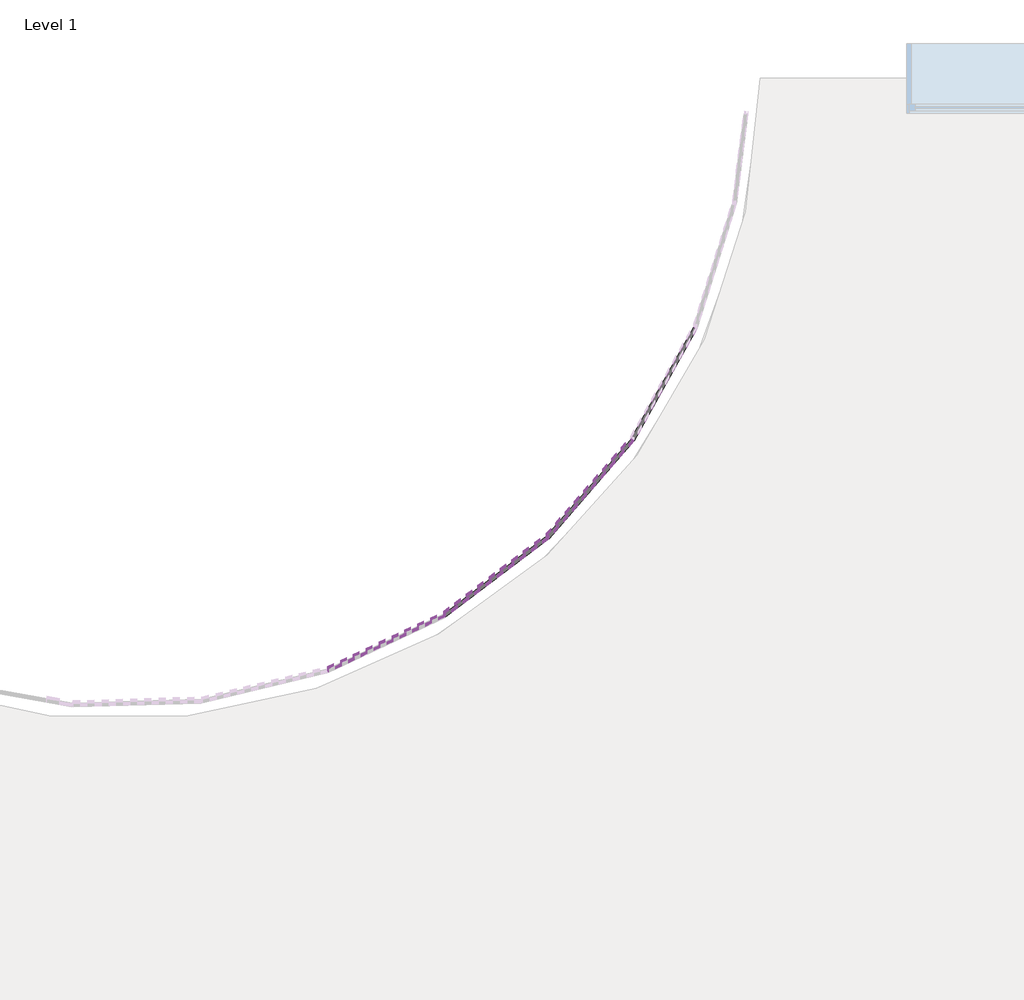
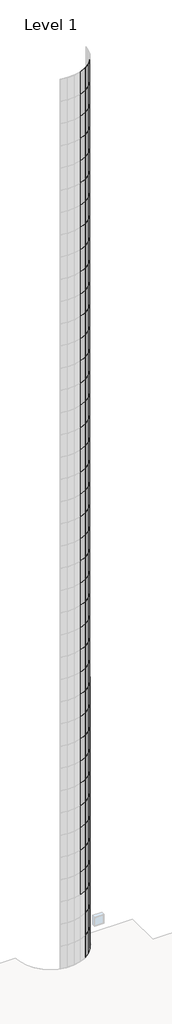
# One storey, part 18 of 19: 129 plates.
"""IFC4 building model written with IfcOpenShell, lengths in millimetres."""

from ifc_helpers import new_model, si_unit, origin, place, context, project, spatial, transform, mapped, element, save
from components import system_panel_glazed_d77d1ebf

model = new_model("IFC4")

# Units and contexts
model_context = context("Model", 3, world=origin())
ifc_project = project(units=[si_unit("LENGTHUNIT", "METRE", prefix="MILLI")], contexts=[model_context])

# Site, building, storey
site = spatial("IfcSite", under=ifc_project)
building = spatial("IfcBuilding", under=site)
storey = spatial("IfcBuildingStorey", under=building, Name="Level 1", Elevation=0.0)

# Plates
placement = place(None, origin())
system_panel_glazed_shape = system_panel_glazed_d77d1ebf(model_context)
element("IfcPlate", 1, ObjectType="System Panel : Glazed", at=placement, inside=storey, context=model_context, shape_type="MappedRepresentation", body=[
    mapped(system_panel_glazed_shape, transform((6187.9476398, 5523.679559, 0.0), x_axis=(0.7973536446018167, 0.6035123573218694, 0.0), y_axis=(-0.6035123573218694, 0.7973536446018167, 0.0), z_axis=(0.0, 0.0, 1.0))),
])
element("IfcPlate", 2, ObjectType="System Panel : Glazed", at=placement, inside=storey, context=model_context, shape_type="MappedRepresentation", body=[
    mapped(system_panel_glazed_shape, transform((6852.9242758, 6144.243956, 0.0), x_axis=(0.6571009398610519, 0.7538025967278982, 0.0), y_axis=(-0.7538025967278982, 0.6571009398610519, 0.0), z_axis=(0.0, 0.0, 1.0))),
])
element("IfcPlate", 3, ObjectType="System Panel : Glazed", at=placement, inside=storey, context=model_context, shape_type="MappedRepresentation", body=[
    mapped(system_panel_glazed_shape, transform((7376.9584203, 6887.6700201, 0.0), x_axis=(0.4890804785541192, 0.8722386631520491, 0.0), y_axis=(-0.8722386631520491, 0.4890804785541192, 0.0), z_axis=(0.0, 0.0, 1.0))),
])
element("IfcPlate", 4, ObjectType="System Panel : Glazed", at=placement, inside=storey, context=model_context, shape_type="MappedRepresentation", body=[
    mapped(system_panel_glazed_shape, transform((6187.9476398, 5523.679559, 3048.0), x_axis=(0.7973536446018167, 0.6035123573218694, 0.0), y_axis=(-0.6035123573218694, 0.7973536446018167, 0.0), z_axis=(0.0, 0.0, 1.0))),
])
element("IfcPlate", 5, ObjectType="System Panel : Glazed", at=placement, inside=storey, context=model_context, shape_type="MappedRepresentation", body=[
    mapped(system_panel_glazed_shape, transform((6852.9242758, 6144.243956, 3048.0), x_axis=(0.6571009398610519, 0.7538025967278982, 0.0), y_axis=(-0.7538025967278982, 0.6571009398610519, 0.0), z_axis=(0.0, 0.0, 1.0))),
])
element("IfcPlate", 6, ObjectType="System Panel : Glazed", at=placement, inside=storey, context=model_context, shape_type="MappedRepresentation", body=[
    mapped(system_panel_glazed_shape, transform((7376.9584203, 6887.6700201, 3048.0), x_axis=(0.4890804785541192, 0.8722386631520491, 0.0), y_axis=(-0.8722386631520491, 0.4890804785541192, 0.0), z_axis=(0.0, 0.0, 1.0))),
])
element("IfcPlate", 7, ObjectType="System Panel : Glazed", at=placement, inside=storey, context=model_context, shape_type="MappedRepresentation", body=[
    mapped(system_panel_glazed_shape, transform((6187.9476398, 5523.679559, 6096.0), x_axis=(0.7973536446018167, 0.6035123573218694, 0.0), y_axis=(-0.6035123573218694, 0.7973536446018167, 0.0), z_axis=(0.0, 0.0, 1.0))),
])
element("IfcPlate", 8, ObjectType="System Panel : Glazed", at=placement, inside=storey, context=model_context, shape_type="MappedRepresentation", body=[
    mapped(system_panel_glazed_shape, transform((6852.9242758, 6144.243956, 6096.0), x_axis=(0.6571009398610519, 0.7538025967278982, 0.0), y_axis=(-0.7538025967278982, 0.6571009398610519, 0.0), z_axis=(0.0, 0.0, 1.0))),
])
element("IfcPlate", 9, ObjectType="System Panel : Glazed", at=placement, inside=storey, context=model_context, shape_type="MappedRepresentation", body=[
    mapped(system_panel_glazed_shape, transform((7376.9584203, 6887.6700201, 6096.0), x_axis=(0.4890804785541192, 0.8722386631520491, 0.0), y_axis=(-0.8722386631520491, 0.4890804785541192, 0.0), z_axis=(0.0, 0.0, 1.0))),
])
element("IfcPlate", 10, ObjectType="System Panel : Glazed", at=placement, inside=storey, context=model_context, shape_type="MappedRepresentation", body=[
    mapped(system_panel_glazed_shape, transform((5410.1290798, 5052.2006253, 9144.0), x_axis=(0.9039117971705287, 0.4277189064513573, 0.0), y_axis=(-0.4277189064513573, 0.9039117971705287, 0.0), z_axis=(0.0, 0.0, 1.0))),
])
element("IfcPlate", 11, ObjectType="System Panel : Glazed", at=placement, inside=storey, context=model_context, shape_type="MappedRepresentation", body=[
    mapped(system_panel_glazed_shape, transform((6187.9476398, 5523.679559, 9144.0), x_axis=(0.7973536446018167, 0.6035123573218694, 0.0), y_axis=(-0.6035123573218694, 0.7973536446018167, 0.0), z_axis=(0.0, 0.0, 1.0))),
])
element("IfcPlate", 12, ObjectType="System Panel : Glazed", at=placement, inside=storey, context=model_context, shape_type="MappedRepresentation", body=[
    mapped(system_panel_glazed_shape, transform((6852.9242758, 6144.243956, 9144.0), x_axis=(0.6571009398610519, 0.7538025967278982, 0.0), y_axis=(-0.7538025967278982, 0.6571009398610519, 0.0), z_axis=(0.0, 0.0, 1.0))),
])
element("IfcPlate", 13, ObjectType="System Panel : Glazed", at=placement, inside=storey, context=model_context, shape_type="MappedRepresentation", body=[
    mapped(system_panel_glazed_shape, transform((7376.9584203, 6887.6700201, 9144.0), x_axis=(0.4890804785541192, 0.8722386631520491, 0.0), y_axis=(-0.8722386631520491, 0.4890804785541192, 0.0), z_axis=(0.0, 0.0, 1.0))),
])
element("IfcPlate", 14, ObjectType="System Panel : Glazed", at=placement, inside=storey, context=model_context, shape_type="MappedRepresentation", body=[
    mapped(system_panel_glazed_shape, transform((5410.1290798, 5052.2006253, 12192.0), x_axis=(0.9039117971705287, 0.4277189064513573, 0.0), y_axis=(-0.4277189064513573, 0.9039117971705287, 0.0), z_axis=(0.0, 0.0, 1.0))),
])
element("IfcPlate", 15, ObjectType="System Panel : Glazed", at=placement, inside=storey, context=model_context, shape_type="MappedRepresentation", body=[
    mapped(system_panel_glazed_shape, transform((6187.9476398, 5523.679559, 12192.0), x_axis=(0.7973536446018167, 0.6035123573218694, 0.0), y_axis=(-0.6035123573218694, 0.7973536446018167, 0.0), z_axis=(0.0, 0.0, 1.0))),
])
element("IfcPlate", 16, ObjectType="System Panel : Glazed", at=placement, inside=storey, context=model_context, shape_type="MappedRepresentation", body=[
    mapped(system_panel_glazed_shape, transform((6852.9242758, 6144.243956, 12192.0), x_axis=(0.6571009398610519, 0.7538025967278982, 0.0), y_axis=(-0.7538025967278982, 0.6571009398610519, 0.0), z_axis=(0.0, 0.0, 1.0))),
])
element("IfcPlate", 17, ObjectType="System Panel : Glazed", at=placement, inside=storey, context=model_context, shape_type="MappedRepresentation", body=[
    mapped(system_panel_glazed_shape, transform((7376.9584203, 6887.6700201, 12192.0), x_axis=(0.4890804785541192, 0.8722386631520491, 0.0), y_axis=(-0.8722386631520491, 0.4890804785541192, 0.0), z_axis=(0.0, 0.0, 1.0))),
])
element("IfcPlate", 18, ObjectType="System Panel : Glazed", at=placement, inside=storey, context=model_context, shape_type="MappedRepresentation", body=[
    mapped(system_panel_glazed_shape, transform((5410.1290798, 5052.2006253, 15240.0), x_axis=(0.9039117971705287, 0.4277189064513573, 0.0), y_axis=(-0.4277189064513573, 0.9039117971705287, 0.0), z_axis=(0.0, 0.0, 1.0))),
])
element("IfcPlate", 19, ObjectType="System Panel : Glazed", at=placement, inside=storey, context=model_context, shape_type="MappedRepresentation", body=[
    mapped(system_panel_glazed_shape, transform((6187.9476398, 5523.679559, 15240.0), x_axis=(0.7973536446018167, 0.6035123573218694, 0.0), y_axis=(-0.6035123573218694, 0.7973536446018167, 0.0), z_axis=(0.0, 0.0, 1.0))),
])
element("IfcPlate", 20, ObjectType="System Panel : Glazed", at=placement, inside=storey, context=model_context, shape_type="MappedRepresentation", body=[
    mapped(system_panel_glazed_shape, transform((6852.9242758, 6144.243956, 15240.0), x_axis=(0.6571009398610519, 0.7538025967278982, 0.0), y_axis=(-0.7538025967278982, 0.6571009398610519, 0.0), z_axis=(0.0, 0.0, 1.0))),
])
element("IfcPlate", 21, ObjectType="System Panel : Glazed", at=placement, inside=storey, context=model_context, shape_type="MappedRepresentation", body=[
    mapped(system_panel_glazed_shape, transform((7376.9584203, 6887.6700201, 15240.0), x_axis=(0.4890804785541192, 0.8722386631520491, 0.0), y_axis=(-0.8722386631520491, 0.4890804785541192, 0.0), z_axis=(0.0, 0.0, 1.0))),
])
element("IfcPlate", 22, ObjectType="System Panel : Glazed", at=placement, inside=storey, context=model_context, shape_type="MappedRepresentation", body=[
    mapped(system_panel_glazed_shape, transform((5410.1290798, 5052.2006253, 18288.0), x_axis=(0.9039117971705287, 0.42771890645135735, 0.0), y_axis=(-0.42771890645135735, 0.9039117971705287, 0.0), z_axis=(0.0, 0.0, 1.0))),
])
element("IfcPlate", 23, ObjectType="System Panel : Glazed", at=placement, inside=storey, context=model_context, shape_type="MappedRepresentation", body=[
    mapped(system_panel_glazed_shape, transform((6187.9476398, 5523.679559, 18288.0), x_axis=(0.7973536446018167, 0.6035123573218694, 0.0), y_axis=(-0.6035123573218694, 0.7973536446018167, 0.0), z_axis=(0.0, 0.0, 1.0))),
])
element("IfcPlate", 24, ObjectType="System Panel : Glazed", at=placement, inside=storey, context=model_context, shape_type="MappedRepresentation", body=[
    mapped(system_panel_glazed_shape, transform((6852.9242758, 6144.243956, 18288.0), x_axis=(0.6571009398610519, 0.7538025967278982, 0.0), y_axis=(-0.7538025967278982, 0.6571009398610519, 0.0), z_axis=(0.0, 0.0, 1.0))),
])
element("IfcPlate", 25, ObjectType="System Panel : Glazed", at=placement, inside=storey, context=model_context, shape_type="MappedRepresentation", body=[
    mapped(system_panel_glazed_shape, transform((7376.9584203, 6887.6700201, 18288.0), x_axis=(0.48908047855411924, 0.8722386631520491, 0.0), y_axis=(-0.8722386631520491, 0.48908047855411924, 0.0), z_axis=(0.0, 0.0, 1.0))),
])
element("IfcPlate", 26, ObjectType="System Panel : Glazed", at=placement, inside=storey, context=model_context, shape_type="MappedRepresentation", body=[
    mapped(system_panel_glazed_shape, transform((5410.1290798, 5052.2006253, 21336.0), x_axis=(0.9039117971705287, 0.4277189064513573, 0.0), y_axis=(-0.4277189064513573, 0.9039117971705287, 0.0), z_axis=(0.0, 0.0, 1.0))),
])
element("IfcPlate", 27, ObjectType="System Panel : Glazed", at=placement, inside=storey, context=model_context, shape_type="MappedRepresentation", body=[
    mapped(system_panel_glazed_shape, transform((6187.9476398, 5523.679559, 21336.0), x_axis=(0.7973536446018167, 0.6035123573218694, 0.0), y_axis=(-0.6035123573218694, 0.7973536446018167, 0.0), z_axis=(0.0, 0.0, 1.0))),
])
element("IfcPlate", 28, ObjectType="System Panel : Glazed", at=placement, inside=storey, context=model_context, shape_type="MappedRepresentation", body=[
    mapped(system_panel_glazed_shape, transform((6852.9242758, 6144.243956, 21336.0), x_axis=(0.6571009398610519, 0.7538025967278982, 0.0), y_axis=(-0.7538025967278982, 0.6571009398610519, 0.0), z_axis=(0.0, 0.0, 1.0))),
])
element("IfcPlate", 29, ObjectType="System Panel : Glazed", at=placement, inside=storey, context=model_context, shape_type="MappedRepresentation", body=[
    mapped(system_panel_glazed_shape, transform((7376.9584203, 6887.6700201, 21336.0), x_axis=(0.4890804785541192, 0.8722386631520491, 0.0), y_axis=(-0.8722386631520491, 0.4890804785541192, 0.0), z_axis=(0.0, 0.0, 1.0))),
])
element("IfcPlate", 30, ObjectType="System Panel : Glazed", at=placement, inside=storey, context=model_context, shape_type="MappedRepresentation", body=[
    mapped(system_panel_glazed_shape, transform((5410.1290798, 5052.2006253, 24384.0), x_axis=(0.9039117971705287, 0.4277189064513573, 0.0), y_axis=(-0.4277189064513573, 0.9039117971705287, 0.0), z_axis=(0.0, 0.0, 1.0))),
])
element("IfcPlate", 31, ObjectType="System Panel : Glazed", at=placement, inside=storey, context=model_context, shape_type="MappedRepresentation", body=[
    mapped(system_panel_glazed_shape, transform((6187.9476398, 5523.679559, 24384.0), x_axis=(0.7973536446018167, 0.6035123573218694, 0.0), y_axis=(-0.6035123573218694, 0.7973536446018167, 0.0), z_axis=(0.0, 0.0, 1.0))),
])
element("IfcPlate", 32, ObjectType="System Panel : Glazed", at=placement, inside=storey, context=model_context, shape_type="MappedRepresentation", body=[
    mapped(system_panel_glazed_shape, transform((6852.9242758, 6144.243956, 24384.0), x_axis=(0.6571009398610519, 0.7538025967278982, 0.0), y_axis=(-0.7538025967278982, 0.6571009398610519, 0.0), z_axis=(0.0, 0.0, 1.0))),
])
element("IfcPlate", 33, ObjectType="System Panel : Glazed", at=placement, inside=storey, context=model_context, shape_type="MappedRepresentation", body=[
    mapped(system_panel_glazed_shape, transform((7376.9584203, 6887.6700201, 24384.0), x_axis=(0.4890804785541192, 0.8722386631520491, 0.0), y_axis=(-0.8722386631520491, 0.4890804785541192, 0.0), z_axis=(0.0, 0.0, 1.0))),
])
element("IfcPlate", 34, ObjectType="System Panel : Glazed", at=placement, inside=storey, context=model_context, shape_type="MappedRepresentation", body=[
    mapped(system_panel_glazed_shape, transform((5410.1290798, 5052.2006253, 27432.0), x_axis=(0.9039117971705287, 0.4277189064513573, 0.0), y_axis=(-0.4277189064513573, 0.9039117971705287, 0.0), z_axis=(0.0, 0.0, 1.0))),
])
element("IfcPlate", 35, ObjectType="System Panel : Glazed", at=placement, inside=storey, context=model_context, shape_type="MappedRepresentation", body=[
    mapped(system_panel_glazed_shape, transform((6187.9476398, 5523.679559, 27432.0), x_axis=(0.7973536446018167, 0.6035123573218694, 0.0), y_axis=(-0.6035123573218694, 0.7973536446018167, 0.0), z_axis=(0.0, 0.0, 1.0))),
])
element("IfcPlate", 36, ObjectType="System Panel : Glazed", at=placement, inside=storey, context=model_context, shape_type="MappedRepresentation", body=[
    mapped(system_panel_glazed_shape, transform((6852.9242758, 6144.243956, 27432.0), x_axis=(0.6571009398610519, 0.7538025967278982, 0.0), y_axis=(-0.7538025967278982, 0.6571009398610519, 0.0), z_axis=(0.0, 0.0, 1.0))),
])
element("IfcPlate", 37, ObjectType="System Panel : Glazed", at=placement, inside=storey, context=model_context, shape_type="MappedRepresentation", body=[
    mapped(system_panel_glazed_shape, transform((7376.9584203, 6887.6700201, 27432.0), x_axis=(0.4890804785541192, 0.8722386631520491, 0.0), y_axis=(-0.8722386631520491, 0.4890804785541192, 0.0), z_axis=(0.0, 0.0, 1.0))),
])
element("IfcPlate", 38, ObjectType="System Panel : Glazed", at=placement, inside=storey, context=model_context, shape_type="MappedRepresentation", body=[
    mapped(system_panel_glazed_shape, transform((5410.1290798, 5052.2006253, 30480.0), x_axis=(0.9039117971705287, 0.4277189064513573, 0.0), y_axis=(-0.4277189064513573, 0.9039117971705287, 0.0), z_axis=(0.0, 0.0, 1.0))),
])
element("IfcPlate", 39, ObjectType="System Panel : Glazed", at=placement, inside=storey, context=model_context, shape_type="MappedRepresentation", body=[
    mapped(system_panel_glazed_shape, transform((6187.9476398, 5523.679559, 30480.0), x_axis=(0.7973536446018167, 0.6035123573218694, 0.0), y_axis=(-0.6035123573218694, 0.7973536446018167, 0.0), z_axis=(0.0, 0.0, 1.0))),
])
element("IfcPlate", 40, ObjectType="System Panel : Glazed", at=placement, inside=storey, context=model_context, shape_type="MappedRepresentation", body=[
    mapped(system_panel_glazed_shape, transform((6852.9242758, 6144.243956, 30480.0), x_axis=(0.6571009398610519, 0.7538025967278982, 0.0), y_axis=(-0.7538025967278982, 0.6571009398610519, 0.0), z_axis=(0.0, 0.0, 1.0))),
])
element("IfcPlate", 41, ObjectType="System Panel : Glazed", at=placement, inside=storey, context=model_context, shape_type="MappedRepresentation", body=[
    mapped(system_panel_glazed_shape, transform((7376.9584203, 6887.6700201, 30480.0), x_axis=(0.4890804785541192, 0.8722386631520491, 0.0), y_axis=(-0.8722386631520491, 0.4890804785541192, 0.0), z_axis=(0.0, 0.0, 1.0))),
])
element("IfcPlate", 42, ObjectType="System Panel : Glazed", at=placement, inside=storey, context=model_context, shape_type="MappedRepresentation", body=[
    mapped(system_panel_glazed_shape, transform((5410.1290798, 5052.2006253, 33528.0), x_axis=(0.9039117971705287, 0.4277189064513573, 0.0), y_axis=(-0.4277189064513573, 0.9039117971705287, 0.0), z_axis=(0.0, 0.0, 1.0))),
])
element("IfcPlate", 43, ObjectType="System Panel : Glazed", at=placement, inside=storey, context=model_context, shape_type="MappedRepresentation", body=[
    mapped(system_panel_glazed_shape, transform((6187.9476398, 5523.679559, 33528.0), x_axis=(0.7973536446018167, 0.6035123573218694, 0.0), y_axis=(-0.6035123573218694, 0.7973536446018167, 0.0), z_axis=(0.0, 0.0, 1.0))),
])
element("IfcPlate", 44, ObjectType="System Panel : Glazed", at=placement, inside=storey, context=model_context, shape_type="MappedRepresentation", body=[
    mapped(system_panel_glazed_shape, transform((6852.9242758, 6144.243956, 33528.0), x_axis=(0.6571009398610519, 0.7538025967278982, 0.0), y_axis=(-0.7538025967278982, 0.6571009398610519, 0.0), z_axis=(0.0, 0.0, 1.0))),
])
element("IfcPlate", 45, ObjectType="System Panel : Glazed", at=placement, inside=storey, context=model_context, shape_type="MappedRepresentation", body=[
    mapped(system_panel_glazed_shape, transform((7376.9584203, 6887.6700201, 33528.0), x_axis=(0.4890804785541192, 0.8722386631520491, 0.0), y_axis=(-0.8722386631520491, 0.4890804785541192, 0.0), z_axis=(0.0, 0.0, 1.0))),
])
element("IfcPlate", 46, ObjectType="System Panel : Glazed", at=placement, inside=storey, context=model_context, shape_type="MappedRepresentation", body=[
    mapped(system_panel_glazed_shape, transform((5410.1290798, 5052.2006253, 36576.0), x_axis=(0.9039117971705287, 0.4277189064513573, 0.0), y_axis=(-0.4277189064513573, 0.9039117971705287, 0.0), z_axis=(0.0, 0.0, 1.0))),
])
element("IfcPlate", 47, ObjectType="System Panel : Glazed", at=placement, inside=storey, context=model_context, shape_type="MappedRepresentation", body=[
    mapped(system_panel_glazed_shape, transform((6187.9476398, 5523.679559, 36576.0), x_axis=(0.7973536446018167, 0.6035123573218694, 0.0), y_axis=(-0.6035123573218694, 0.7973536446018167, 0.0), z_axis=(0.0, 0.0, 1.0))),
])
element("IfcPlate", 48, ObjectType="System Panel : Glazed", at=placement, inside=storey, context=model_context, shape_type="MappedRepresentation", body=[
    mapped(system_panel_glazed_shape, transform((6852.9242758, 6144.243956, 36576.0), x_axis=(0.6571009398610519, 0.7538025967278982, 0.0), y_axis=(-0.7538025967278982, 0.6571009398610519, 0.0), z_axis=(0.0, 0.0, 1.0))),
])
element("IfcPlate", 49, ObjectType="System Panel : Glazed", at=placement, inside=storey, context=model_context, shape_type="MappedRepresentation", body=[
    mapped(system_panel_glazed_shape, transform((5410.1290798, 5052.2006253, 39624.0), x_axis=(0.9039117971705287, 0.4277189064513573, 0.0), y_axis=(-0.4277189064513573, 0.9039117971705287, 0.0), z_axis=(0.0, 0.0, 1.0))),
])
element("IfcPlate", 50, ObjectType="System Panel : Glazed", at=placement, inside=storey, context=model_context, shape_type="MappedRepresentation", body=[
    mapped(system_panel_glazed_shape, transform((6187.9476398, 5523.679559, 39624.0), x_axis=(0.7973536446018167, 0.6035123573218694, 0.0), y_axis=(-0.6035123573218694, 0.7973536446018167, 0.0), z_axis=(0.0, 0.0, 1.0))),
])
element("IfcPlate", 51, ObjectType="System Panel : Glazed", at=placement, inside=storey, context=model_context, shape_type="MappedRepresentation", body=[
    mapped(system_panel_glazed_shape, transform((6852.9242758, 6144.243956, 39624.0), x_axis=(0.6571009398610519, 0.7538025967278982, 0.0), y_axis=(-0.7538025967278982, 0.6571009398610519, 0.0), z_axis=(0.0, 0.0, 1.0))),
])
element("IfcPlate", 52, ObjectType="System Panel : Glazed", at=placement, inside=storey, context=model_context, shape_type="MappedRepresentation", body=[
    mapped(system_panel_glazed_shape, transform((5410.1290798, 5052.2006253, 42672.0), x_axis=(0.9039117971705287, 0.4277189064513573, 0.0), y_axis=(-0.4277189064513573, 0.9039117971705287, 0.0), z_axis=(0.0, 0.0, 1.0))),
])
element("IfcPlate", 53, ObjectType="System Panel : Glazed", at=placement, inside=storey, context=model_context, shape_type="MappedRepresentation", body=[
    mapped(system_panel_glazed_shape, transform((6187.9476398, 5523.679559, 42672.0), x_axis=(0.7973536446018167, 0.6035123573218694, 0.0), y_axis=(-0.6035123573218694, 0.7973536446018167, 0.0), z_axis=(0.0, 0.0, 1.0))),
])
element("IfcPlate", 54, ObjectType="System Panel : Glazed", at=placement, inside=storey, context=model_context, shape_type="MappedRepresentation", body=[
    mapped(system_panel_glazed_shape, transform((6852.9242758, 6144.243956, 42672.0), x_axis=(0.6571009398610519, 0.7538025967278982, 0.0), y_axis=(-0.7538025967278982, 0.6571009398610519, 0.0), z_axis=(0.0, 0.0, 1.0))),
])
element("IfcPlate", 55, ObjectType="System Panel : Glazed", at=placement, inside=storey, context=model_context, shape_type="MappedRepresentation", body=[
    mapped(system_panel_glazed_shape, transform((5410.1290798, 5052.2006253, 45720.0), x_axis=(0.9039117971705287, 0.4277189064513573, 0.0), y_axis=(-0.4277189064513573, 0.9039117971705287, 0.0), z_axis=(0.0, 0.0, 1.0))),
])
element("IfcPlate", 56, ObjectType="System Panel : Glazed", at=placement, inside=storey, context=model_context, shape_type="MappedRepresentation", body=[
    mapped(system_panel_glazed_shape, transform((6187.9476398, 5523.679559, 45720.0), x_axis=(0.7973536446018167, 0.6035123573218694, 0.0), y_axis=(-0.6035123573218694, 0.7973536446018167, 0.0), z_axis=(0.0, 0.0, 1.0))),
])
element("IfcPlate", 57, ObjectType="System Panel : Glazed", at=placement, inside=storey, context=model_context, shape_type="MappedRepresentation", body=[
    mapped(system_panel_glazed_shape, transform((6852.9242758, 6144.243956, 45720.0), x_axis=(0.6571009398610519, 0.7538025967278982, 0.0), y_axis=(-0.7538025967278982, 0.6571009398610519, 0.0), z_axis=(0.0, 0.0, 1.0))),
])
element("IfcPlate", 58, ObjectType="System Panel : Glazed", at=placement, inside=storey, context=model_context, shape_type="MappedRepresentation", body=[
    mapped(system_panel_glazed_shape, transform((5410.1290798, 5052.2006253, 48768.0), x_axis=(0.9039117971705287, 0.4277189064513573, 0.0), y_axis=(-0.4277189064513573, 0.9039117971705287, 0.0), z_axis=(0.0, 0.0, 1.0))),
])
element("IfcPlate", 59, ObjectType="System Panel : Glazed", at=placement, inside=storey, context=model_context, shape_type="MappedRepresentation", body=[
    mapped(system_panel_glazed_shape, transform((6187.9476398, 5523.679559, 48768.0), x_axis=(0.7973536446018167, 0.6035123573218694, 0.0), y_axis=(-0.6035123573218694, 0.7973536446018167, 0.0), z_axis=(0.0, 0.0, 1.0))),
])
element("IfcPlate", 60, ObjectType="System Panel : Glazed", at=placement, inside=storey, context=model_context, shape_type="MappedRepresentation", body=[
    mapped(system_panel_glazed_shape, transform((6852.9242758, 6144.243956, 48768.0), x_axis=(0.6571009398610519, 0.7538025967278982, 0.0), y_axis=(-0.7538025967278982, 0.6571009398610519, 0.0), z_axis=(0.0, 0.0, 1.0))),
])
element("IfcPlate", 61, ObjectType="System Panel : Glazed", at=placement, inside=storey, context=model_context, shape_type="MappedRepresentation", body=[
    mapped(system_panel_glazed_shape, transform((5410.1290798, 5052.2006253, 51816.0), x_axis=(0.9039117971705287, 0.4277189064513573, 0.0), y_axis=(-0.4277189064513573, 0.9039117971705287, 0.0), z_axis=(0.0, 0.0, 1.0))),
])
element("IfcPlate", 62, ObjectType="System Panel : Glazed", at=placement, inside=storey, context=model_context, shape_type="MappedRepresentation", body=[
    mapped(system_panel_glazed_shape, transform((6187.9476398, 5523.679559, 51816.0), x_axis=(0.7973536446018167, 0.6035123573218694, 0.0), y_axis=(-0.6035123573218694, 0.7973536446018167, 0.0), z_axis=(0.0, 0.0, 1.0))),
])
element("IfcPlate", 63, ObjectType="System Panel : Glazed", at=placement, inside=storey, context=model_context, shape_type="MappedRepresentation", body=[
    mapped(system_panel_glazed_shape, transform((6852.9242758, 6144.243956, 51816.0), x_axis=(0.6571009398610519, 0.7538025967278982, 0.0), y_axis=(-0.7538025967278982, 0.6571009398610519, 0.0), z_axis=(0.0, 0.0, 1.0))),
])
element("IfcPlate", 64, ObjectType="System Panel : Glazed", at=placement, inside=storey, context=model_context, shape_type="MappedRepresentation", body=[
    mapped(system_panel_glazed_shape, transform((5410.1290798, 5052.2006253, 54864.0), x_axis=(0.9039117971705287, 0.4277189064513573, 0.0), y_axis=(-0.4277189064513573, 0.9039117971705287, 0.0), z_axis=(0.0, 0.0, 1.0))),
])
element("IfcPlate", 65, ObjectType="System Panel : Glazed", at=placement, inside=storey, context=model_context, shape_type="MappedRepresentation", body=[
    mapped(system_panel_glazed_shape, transform((6187.9476398, 5523.679559, 54864.0), x_axis=(0.7973536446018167, 0.6035123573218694, 0.0), y_axis=(-0.6035123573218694, 0.7973536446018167, 0.0), z_axis=(0.0, 0.0, 1.0))),
])
element("IfcPlate", 66, ObjectType="System Panel : Glazed", at=placement, inside=storey, context=model_context, shape_type="MappedRepresentation", body=[
    mapped(system_panel_glazed_shape, transform((6852.9242758, 6144.243956, 54864.0), x_axis=(0.6571009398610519, 0.7538025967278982, 0.0), y_axis=(-0.7538025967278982, 0.6571009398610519, 0.0), z_axis=(0.0, 0.0, 1.0))),
])
element("IfcPlate", 67, ObjectType="System Panel : Glazed", at=placement, inside=storey, context=model_context, shape_type="MappedRepresentation", body=[
    mapped(system_panel_glazed_shape, transform((5410.1290798, 5052.2006253, 57912.0), x_axis=(0.9039117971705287, 0.4277189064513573, 0.0), y_axis=(-0.4277189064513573, 0.9039117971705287, 0.0), z_axis=(0.0, 0.0, 1.0))),
])
element("IfcPlate", 68, ObjectType="System Panel : Glazed", at=placement, inside=storey, context=model_context, shape_type="MappedRepresentation", body=[
    mapped(system_panel_glazed_shape, transform((6187.9476398, 5523.679559, 57912.0), x_axis=(0.7973536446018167, 0.6035123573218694, 0.0), y_axis=(-0.6035123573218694, 0.7973536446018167, 0.0), z_axis=(0.0, 0.0, 1.0))),
])
element("IfcPlate", 69, ObjectType="System Panel : Glazed", at=placement, inside=storey, context=model_context, shape_type="MappedRepresentation", body=[
    mapped(system_panel_glazed_shape, transform((6852.9242758, 6144.243956, 57912.0), x_axis=(0.6571009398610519, 0.7538025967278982, 0.0), y_axis=(-0.7538025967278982, 0.6571009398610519, 0.0), z_axis=(0.0, 0.0, 1.0))),
])
element("IfcPlate", 70, ObjectType="System Panel : Glazed", at=placement, inside=storey, context=model_context, shape_type="MappedRepresentation", body=[
    mapped(system_panel_glazed_shape, transform((5410.1290798, 5052.2006253, 60960.0), x_axis=(0.9039117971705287, 0.4277189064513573, 0.0), y_axis=(-0.4277189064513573, 0.9039117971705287, 0.0), z_axis=(0.0, 0.0, 1.0))),
])
element("IfcPlate", 71, ObjectType="System Panel : Glazed", at=placement, inside=storey, context=model_context, shape_type="MappedRepresentation", body=[
    mapped(system_panel_glazed_shape, transform((6187.9476398, 5523.679559, 60960.0), x_axis=(0.7973536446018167, 0.6035123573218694, 0.0), y_axis=(-0.6035123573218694, 0.7973536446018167, 0.0), z_axis=(0.0, 0.0, 1.0))),
])
element("IfcPlate", 72, ObjectType="System Panel : Glazed", at=placement, inside=storey, context=model_context, shape_type="MappedRepresentation", body=[
    mapped(system_panel_glazed_shape, transform((6852.9242758, 6144.243956, 60960.0), x_axis=(0.6571009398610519, 0.7538025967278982, 0.0), y_axis=(-0.7538025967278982, 0.6571009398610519, 0.0), z_axis=(0.0, 0.0, 1.0))),
])
element("IfcPlate", 73, ObjectType="System Panel : Glazed", at=placement, inside=storey, context=model_context, shape_type="MappedRepresentation", body=[
    mapped(system_panel_glazed_shape, transform((5410.1290798, 5052.2006253, 64008.0), x_axis=(0.9039117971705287, 0.4277189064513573, 0.0), y_axis=(-0.4277189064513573, 0.9039117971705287, 0.0), z_axis=(0.0, 0.0, 1.0))),
])
element("IfcPlate", 74, ObjectType="System Panel : Glazed", at=placement, inside=storey, context=model_context, shape_type="MappedRepresentation", body=[
    mapped(system_panel_glazed_shape, transform((6187.9476398, 5523.679559, 64008.0), x_axis=(0.7973536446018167, 0.6035123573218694, 0.0), y_axis=(-0.6035123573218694, 0.7973536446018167, 0.0), z_axis=(0.0, 0.0, 1.0))),
])
element("IfcPlate", 75, ObjectType="System Panel : Glazed", at=placement, inside=storey, context=model_context, shape_type="MappedRepresentation", body=[
    mapped(system_panel_glazed_shape, transform((6852.9242758, 6144.243956, 64008.0), x_axis=(0.6571009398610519, 0.7538025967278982, 0.0), y_axis=(-0.7538025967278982, 0.6571009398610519, 0.0), z_axis=(0.0, 0.0, 1.0))),
])
element("IfcPlate", 76, ObjectType="System Panel : Glazed", at=placement, inside=storey, context=model_context, shape_type="MappedRepresentation", body=[
    mapped(system_panel_glazed_shape, transform((5410.1290798, 5052.2006253, 67056.0), x_axis=(0.9039117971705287, 0.4277189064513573, 0.0), y_axis=(-0.4277189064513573, 0.9039117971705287, 0.0), z_axis=(0.0, 0.0, 1.0))),
])
element("IfcPlate", 77, ObjectType="System Panel : Glazed", at=placement, inside=storey, context=model_context, shape_type="MappedRepresentation", body=[
    mapped(system_panel_glazed_shape, transform((6187.9476398, 5523.679559, 67056.0), x_axis=(0.7973536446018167, 0.6035123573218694, 0.0), y_axis=(-0.6035123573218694, 0.7973536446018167, 0.0), z_axis=(0.0, 0.0, 1.0))),
])
element("IfcPlate", 78, ObjectType="System Panel : Glazed", at=placement, inside=storey, context=model_context, shape_type="MappedRepresentation", body=[
    mapped(system_panel_glazed_shape, transform((6852.9242758, 6144.243956, 67056.0), x_axis=(0.6571009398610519, 0.7538025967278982, 0.0), y_axis=(-0.7538025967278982, 0.6571009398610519, 0.0), z_axis=(0.0, 0.0, 1.0))),
])
element("IfcPlate", 79, ObjectType="System Panel : Glazed", at=placement, inside=storey, context=model_context, shape_type="MappedRepresentation", body=[
    mapped(system_panel_glazed_shape, transform((5410.1290798, 5052.2006253, 70104.0), x_axis=(0.9039117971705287, 0.4277189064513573, 0.0), y_axis=(-0.4277189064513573, 0.9039117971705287, 0.0), z_axis=(0.0, 0.0, 1.0))),
])
element("IfcPlate", 80, ObjectType="System Panel : Glazed", at=placement, inside=storey, context=model_context, shape_type="MappedRepresentation", body=[
    mapped(system_panel_glazed_shape, transform((6187.9476398, 5523.679559, 70104.0), x_axis=(0.7973536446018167, 0.6035123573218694, 0.0), y_axis=(-0.6035123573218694, 0.7973536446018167, 0.0), z_axis=(0.0, 0.0, 1.0))),
])
element("IfcPlate", 81, ObjectType="System Panel : Glazed", at=placement, inside=storey, context=model_context, shape_type="MappedRepresentation", body=[
    mapped(system_panel_glazed_shape, transform((6852.9242758, 6144.243956, 70104.0), x_axis=(0.6571009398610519, 0.7538025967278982, 0.0), y_axis=(-0.7538025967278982, 0.6571009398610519, 0.0), z_axis=(0.0, 0.0, 1.0))),
])
element("IfcPlate", 82, ObjectType="System Panel : Glazed", at=placement, inside=storey, context=model_context, shape_type="MappedRepresentation", body=[
    mapped(system_panel_glazed_shape, transform((5410.1290798, 5052.2006253, 73152.0), x_axis=(0.9039117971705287, 0.4277189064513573, 0.0), y_axis=(-0.4277189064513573, 0.9039117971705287, 0.0), z_axis=(0.0, 0.0, 1.0))),
])
element("IfcPlate", 83, ObjectType="System Panel : Glazed", at=placement, inside=storey, context=model_context, shape_type="MappedRepresentation", body=[
    mapped(system_panel_glazed_shape, transform((6187.9476398, 5523.679559, 73152.0), x_axis=(0.7973536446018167, 0.6035123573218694, 0.0), y_axis=(-0.6035123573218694, 0.7973536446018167, 0.0), z_axis=(0.0, 0.0, 1.0))),
])
element("IfcPlate", 84, ObjectType="System Panel : Glazed", at=placement, inside=storey, context=model_context, shape_type="MappedRepresentation", body=[
    mapped(system_panel_glazed_shape, transform((6852.9242758, 6144.243956, 73152.0), x_axis=(0.6571009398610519, 0.7538025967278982, 0.0), y_axis=(-0.7538025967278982, 0.6571009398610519, 0.0), z_axis=(0.0, 0.0, 1.0))),
])
element("IfcPlate", 85, ObjectType="System Panel : Glazed", at=placement, inside=storey, context=model_context, shape_type="MappedRepresentation", body=[
    mapped(system_panel_glazed_shape, transform((5410.1290798, 5052.2006253, 76200.0), x_axis=(0.9039117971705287, 0.4277189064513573, 0.0), y_axis=(-0.4277189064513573, 0.9039117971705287, 0.0), z_axis=(0.0, 0.0, 1.0))),
])
element("IfcPlate", 86, ObjectType="System Panel : Glazed", at=placement, inside=storey, context=model_context, shape_type="MappedRepresentation", body=[
    mapped(system_panel_glazed_shape, transform((6187.9476398, 5523.679559, 76200.0), x_axis=(0.7973536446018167, 0.6035123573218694, 0.0), y_axis=(-0.6035123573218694, 0.7973536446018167, 0.0), z_axis=(0.0, 0.0, 1.0))),
])
element("IfcPlate", 87, ObjectType="System Panel : Glazed", at=placement, inside=storey, context=model_context, shape_type="MappedRepresentation", body=[
    mapped(system_panel_glazed_shape, transform((6852.9242758, 6144.243956, 76200.0), x_axis=(0.6571009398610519, 0.7538025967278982, 0.0), y_axis=(-0.7538025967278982, 0.6571009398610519, 0.0), z_axis=(0.0, 0.0, 1.0))),
])
element("IfcPlate", 88, ObjectType="System Panel : Glazed", at=placement, inside=storey, context=model_context, shape_type="MappedRepresentation", body=[
    mapped(system_panel_glazed_shape, transform((5410.1290798, 5052.2006253, 79248.0), x_axis=(0.9039117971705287, 0.4277189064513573, 0.0), y_axis=(-0.4277189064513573, 0.9039117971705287, 0.0), z_axis=(0.0, 0.0, 1.0))),
])
element("IfcPlate", 89, ObjectType="System Panel : Glazed", at=placement, inside=storey, context=model_context, shape_type="MappedRepresentation", body=[
    mapped(system_panel_glazed_shape, transform((6187.9476398, 5523.679559, 79248.0), x_axis=(0.7973536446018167, 0.6035123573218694, 0.0), y_axis=(-0.6035123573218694, 0.7973536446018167, 0.0), z_axis=(0.0, 0.0, 1.0))),
])
element("IfcPlate", 90, ObjectType="System Panel : Glazed", at=placement, inside=storey, context=model_context, shape_type="MappedRepresentation", body=[
    mapped(system_panel_glazed_shape, transform((6852.9242758, 6144.243956, 79248.0), x_axis=(0.6571009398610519, 0.7538025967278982, 0.0), y_axis=(-0.7538025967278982, 0.6571009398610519, 0.0), z_axis=(0.0, 0.0, 1.0))),
])
element("IfcPlate", 91, ObjectType="System Panel : Glazed", at=placement, inside=storey, context=model_context, shape_type="MappedRepresentation", body=[
    mapped(system_panel_glazed_shape, transform((5410.1290798, 5052.2006253, 82296.0), x_axis=(0.9039117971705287, 0.4277189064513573, 0.0), y_axis=(-0.4277189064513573, 0.9039117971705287, 0.0), z_axis=(0.0, 0.0, 1.0))),
])
element("IfcPlate", 92, ObjectType="System Panel : Glazed", at=placement, inside=storey, context=model_context, shape_type="MappedRepresentation", body=[
    mapped(system_panel_glazed_shape, transform((6187.9476398, 5523.679559, 82296.0), x_axis=(0.7973536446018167, 0.6035123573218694, 0.0), y_axis=(-0.6035123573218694, 0.7973536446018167, 0.0), z_axis=(0.0, 0.0, 1.0))),
])
element("IfcPlate", 93, ObjectType="System Panel : Glazed", at=placement, inside=storey, context=model_context, shape_type="MappedRepresentation", body=[
    mapped(system_panel_glazed_shape, transform((6852.9242758, 6144.243956, 82296.0), x_axis=(0.6571009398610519, 0.7538025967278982, 0.0), y_axis=(-0.7538025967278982, 0.6571009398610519, 0.0), z_axis=(0.0, 0.0, 1.0))),
])
element("IfcPlate", 94, ObjectType="System Panel : Glazed", at=placement, inside=storey, context=model_context, shape_type="MappedRepresentation", body=[
    mapped(system_panel_glazed_shape, transform((5410.1290798, 5052.2006253, 85344.0), x_axis=(0.9039117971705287, 0.4277189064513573, 0.0), y_axis=(-0.4277189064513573, 0.9039117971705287, 0.0), z_axis=(0.0, 0.0, 1.0))),
])
element("IfcPlate", 95, ObjectType="System Panel : Glazed", at=placement, inside=storey, context=model_context, shape_type="MappedRepresentation", body=[
    mapped(system_panel_glazed_shape, transform((6187.9476398, 5523.679559, 85344.0), x_axis=(0.7973536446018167, 0.6035123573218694, 0.0), y_axis=(-0.6035123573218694, 0.7973536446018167, 0.0), z_axis=(0.0, 0.0, 1.0))),
])
element("IfcPlate", 96, ObjectType="System Panel : Glazed", at=placement, inside=storey, context=model_context, shape_type="MappedRepresentation", body=[
    mapped(system_panel_glazed_shape, transform((6852.9242758, 6144.243956, 85344.0), x_axis=(0.6571009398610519, 0.7538025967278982, 0.0), y_axis=(-0.7538025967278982, 0.6571009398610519, 0.0), z_axis=(0.0, 0.0, 1.0))),
])
element("IfcPlate", 97, ObjectType="System Panel : Glazed", at=placement, inside=storey, context=model_context, shape_type="MappedRepresentation", body=[
    mapped(system_panel_glazed_shape, transform((5410.1290798, 5052.2006253, 88392.0), x_axis=(0.9039117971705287, 0.4277189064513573, 0.0), y_axis=(-0.4277189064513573, 0.9039117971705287, 0.0), z_axis=(0.0, 0.0, 1.0))),
])
element("IfcPlate", 98, ObjectType="System Panel : Glazed", at=placement, inside=storey, context=model_context, shape_type="MappedRepresentation", body=[
    mapped(system_panel_glazed_shape, transform((6187.9476398, 5523.679559, 88392.0), x_axis=(0.7973536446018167, 0.6035123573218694, 0.0), y_axis=(-0.6035123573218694, 0.7973536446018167, 0.0), z_axis=(0.0, 0.0, 1.0))),
])
element("IfcPlate", 99, ObjectType="System Panel : Glazed", at=placement, inside=storey, context=model_context, shape_type="MappedRepresentation", body=[
    mapped(system_panel_glazed_shape, transform((6852.9242758, 6144.243956, 88392.0), x_axis=(0.6571009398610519, 0.7538025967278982, 0.0), y_axis=(-0.7538025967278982, 0.6571009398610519, 0.0), z_axis=(0.0, 0.0, 1.0))),
])
element("IfcPlate", 100, ObjectType="System Panel : Glazed", at=placement, inside=storey, context=model_context, shape_type="MappedRepresentation", body=[
    mapped(system_panel_glazed_shape, transform((5410.1290798, 5052.2006253, 91440.0), x_axis=(0.9039117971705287, 0.4277189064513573, 0.0), y_axis=(-0.4277189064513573, 0.9039117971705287, 0.0), z_axis=(0.0, 0.0, 1.0))),
])
element("IfcPlate", 101, ObjectType="System Panel : Glazed", at=placement, inside=storey, context=model_context, shape_type="MappedRepresentation", body=[
    mapped(system_panel_glazed_shape, transform((6187.9476398, 5523.679559, 91440.0), x_axis=(0.7973536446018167, 0.6035123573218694, 0.0), y_axis=(-0.6035123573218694, 0.7973536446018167, 0.0), z_axis=(0.0, 0.0, 1.0))),
])
element("IfcPlate", 102, ObjectType="System Panel : Glazed", at=placement, inside=storey, context=model_context, shape_type="MappedRepresentation", body=[
    mapped(system_panel_glazed_shape, transform((6852.9242758, 6144.243956, 91440.0), x_axis=(0.6571009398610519, 0.7538025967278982, 0.0), y_axis=(-0.7538025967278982, 0.6571009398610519, 0.0), z_axis=(0.0, 0.0, 1.0))),
])
element("IfcPlate", 103, ObjectType="System Panel : Glazed", at=placement, inside=storey, context=model_context, shape_type="MappedRepresentation", body=[
    mapped(system_panel_glazed_shape, transform((5410.1290798, 5052.2006253, 94488.0), x_axis=(0.9039117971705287, 0.4277189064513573, 0.0), y_axis=(-0.4277189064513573, 0.9039117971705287, 0.0), z_axis=(0.0, 0.0, 1.0))),
])
element("IfcPlate", 104, ObjectType="System Panel : Glazed", at=placement, inside=storey, context=model_context, shape_type="MappedRepresentation", body=[
    mapped(system_panel_glazed_shape, transform((6187.9476398, 5523.679559, 94488.0), x_axis=(0.7973536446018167, 0.6035123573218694, 0.0), y_axis=(-0.6035123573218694, 0.7973536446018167, 0.0), z_axis=(0.0, 0.0, 1.0))),
])
element("IfcPlate", 105, ObjectType="System Panel : Glazed", at=placement, inside=storey, context=model_context, shape_type="MappedRepresentation", body=[
    mapped(system_panel_glazed_shape, transform((6852.9242758, 6144.243956, 94488.0), x_axis=(0.6571009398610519, 0.7538025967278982, 0.0), y_axis=(-0.7538025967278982, 0.6571009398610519, 0.0), z_axis=(0.0, 0.0, 1.0))),
])
element("IfcPlate", 106, ObjectType="System Panel : Glazed", at=placement, inside=storey, context=model_context, shape_type="MappedRepresentation", body=[
    mapped(system_panel_glazed_shape, transform((5410.1290798, 5052.2006253, 97536.0), x_axis=(0.9039117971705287, 0.4277189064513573, 0.0), y_axis=(-0.4277189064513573, 0.9039117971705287, 0.0), z_axis=(0.0, 0.0, 1.0))),
])
element("IfcPlate", 107, ObjectType="System Panel : Glazed", at=placement, inside=storey, context=model_context, shape_type="MappedRepresentation", body=[
    mapped(system_panel_glazed_shape, transform((6187.9476398, 5523.679559, 97536.0), x_axis=(0.7973536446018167, 0.6035123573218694, 0.0), y_axis=(-0.6035123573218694, 0.7973536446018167, 0.0), z_axis=(0.0, 0.0, 1.0))),
])
element("IfcPlate", 108, ObjectType="System Panel : Glazed", at=placement, inside=storey, context=model_context, shape_type="MappedRepresentation", body=[
    mapped(system_panel_glazed_shape, transform((6852.9242758, 6144.243956, 97536.0), x_axis=(0.6571009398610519, 0.7538025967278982, 0.0), y_axis=(-0.7538025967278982, 0.6571009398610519, 0.0), z_axis=(0.0, 0.0, 1.0))),
])
element("IfcPlate", 109, ObjectType="System Panel : Glazed", at=placement, inside=storey, context=model_context, shape_type="MappedRepresentation", body=[
    mapped(system_panel_glazed_shape, transform((5410.1290798, 5052.2006253, 100584.0), x_axis=(0.9039117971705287, 0.4277189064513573, 0.0), y_axis=(-0.4277189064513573, 0.9039117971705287, 0.0), z_axis=(0.0, 0.0, 1.0))),
])
element("IfcPlate", 110, ObjectType="System Panel : Glazed", at=placement, inside=storey, context=model_context, shape_type="MappedRepresentation", body=[
    mapped(system_panel_glazed_shape, transform((6187.9476398, 5523.679559, 100584.0), x_axis=(0.7973536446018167, 0.6035123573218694, 0.0), y_axis=(-0.6035123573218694, 0.7973536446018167, 0.0), z_axis=(0.0, 0.0, 1.0))),
])
element("IfcPlate", 111, ObjectType="System Panel : Glazed", at=placement, inside=storey, context=model_context, shape_type="MappedRepresentation", body=[
    mapped(system_panel_glazed_shape, transform((6852.9242758, 6144.243956, 100584.0), x_axis=(0.6571009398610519, 0.7538025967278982, 0.0), y_axis=(-0.7538025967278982, 0.6571009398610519, 0.0), z_axis=(0.0, 0.0, 1.0))),
])
element("IfcPlate", 112, ObjectType="System Panel : Glazed", at=placement, inside=storey, context=model_context, shape_type="MappedRepresentation", body=[
    mapped(system_panel_glazed_shape, transform((5410.1290798, 5052.2006253, 103632.0), x_axis=(0.9039117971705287, 0.4277189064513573, 0.0), y_axis=(-0.4277189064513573, 0.9039117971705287, 0.0), z_axis=(0.0, 0.0, 1.0))),
])
element("IfcPlate", 113, ObjectType="System Panel : Glazed", at=placement, inside=storey, context=model_context, shape_type="MappedRepresentation", body=[
    mapped(system_panel_glazed_shape, transform((6187.9476398, 5523.679559, 103632.0), x_axis=(0.7973536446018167, 0.6035123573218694, 0.0), y_axis=(-0.6035123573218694, 0.7973536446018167, 0.0), z_axis=(0.0, 0.0, 1.0))),
])
element("IfcPlate", 114, ObjectType="System Panel : Glazed", at=placement, inside=storey, context=model_context, shape_type="MappedRepresentation", body=[
    mapped(system_panel_glazed_shape, transform((6852.9242758, 6144.243956, 103632.0), x_axis=(0.6571009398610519, 0.7538025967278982, 0.0), y_axis=(-0.7538025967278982, 0.6571009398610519, 0.0), z_axis=(0.0, 0.0, 1.0))),
])
element("IfcPlate", 115, ObjectType="System Panel : Glazed", at=placement, inside=storey, context=model_context, shape_type="MappedRepresentation", body=[
    mapped(system_panel_glazed_shape, transform((5410.1290798, 5052.2006253, 106680.0), x_axis=(0.9039117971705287, 0.4277189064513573, 0.0), y_axis=(-0.4277189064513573, 0.9039117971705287, 0.0), z_axis=(0.0, 0.0, 1.0))),
])
element("IfcPlate", 116, ObjectType="System Panel : Glazed", at=placement, inside=storey, context=model_context, shape_type="MappedRepresentation", body=[
    mapped(system_panel_glazed_shape, transform((6187.9476398, 5523.679559, 106680.0), x_axis=(0.7973536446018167, 0.6035123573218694, 0.0), y_axis=(-0.6035123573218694, 0.7973536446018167, 0.0), z_axis=(0.0, 0.0, 1.0))),
])
element("IfcPlate", 117, ObjectType="System Panel : Glazed", at=placement, inside=storey, context=model_context, shape_type="MappedRepresentation", body=[
    mapped(system_panel_glazed_shape, transform((6852.9242758, 6144.243956, 106680.0), x_axis=(0.6571009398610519, 0.7538025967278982, 0.0), y_axis=(-0.7538025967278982, 0.6571009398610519, 0.0), z_axis=(0.0, 0.0, 1.0))),
])
element("IfcPlate", 118, ObjectType="System Panel : Glazed", at=placement, inside=storey, context=model_context, shape_type="MappedRepresentation", body=[
    mapped(system_panel_glazed_shape, transform((5410.1290798, 5052.2006253, 109728.0), x_axis=(0.9039117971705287, 0.4277189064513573, 0.0), y_axis=(-0.4277189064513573, 0.9039117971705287, 0.0), z_axis=(0.0, 0.0, 1.0))),
])
element("IfcPlate", 119, ObjectType="System Panel : Glazed", at=placement, inside=storey, context=model_context, shape_type="MappedRepresentation", body=[
    mapped(system_panel_glazed_shape, transform((6187.9476398, 5523.679559, 109728.0), x_axis=(0.7973536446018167, 0.6035123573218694, 0.0), y_axis=(-0.6035123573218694, 0.7973536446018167, 0.0), z_axis=(0.0, 0.0, 1.0))),
])
element("IfcPlate", 120, ObjectType="System Panel : Glazed", at=placement, inside=storey, context=model_context, shape_type="MappedRepresentation", body=[
    mapped(system_panel_glazed_shape, transform((6852.9242758, 6144.243956, 109728.0), x_axis=(0.6571009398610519, 0.7538025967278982, 0.0), y_axis=(-0.7538025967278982, 0.6571009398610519, 0.0), z_axis=(0.0, 0.0, 1.0))),
])
element("IfcPlate", 121, ObjectType="System Panel : Glazed", at=placement, inside=storey, context=model_context, shape_type="MappedRepresentation", body=[
    mapped(system_panel_glazed_shape, transform((5410.1290798, 5052.2006253, 112776.0), x_axis=(0.9039117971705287, 0.4277189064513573, 0.0), y_axis=(-0.4277189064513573, 0.9039117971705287, 0.0), z_axis=(0.0, 0.0, 1.0))),
])
element("IfcPlate", 122, ObjectType="System Panel : Glazed", at=placement, inside=storey, context=model_context, shape_type="MappedRepresentation", body=[
    mapped(system_panel_glazed_shape, transform((6187.9476398, 5523.679559, 112776.0), x_axis=(0.7973536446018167, 0.6035123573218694, 0.0), y_axis=(-0.6035123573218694, 0.7973536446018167, 0.0), z_axis=(0.0, 0.0, 1.0))),
])
element("IfcPlate", 123, ObjectType="System Panel : Glazed", at=placement, inside=storey, context=model_context, shape_type="MappedRepresentation", body=[
    mapped(system_panel_glazed_shape, transform((6852.9242758, 6144.243956, 112776.0), x_axis=(0.6571009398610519, 0.7538025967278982, 0.0), y_axis=(-0.7538025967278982, 0.6571009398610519, 0.0), z_axis=(0.0, 0.0, 1.0))),
])
element("IfcPlate", 124, ObjectType="System Panel : Glazed", at=placement, inside=storey, context=model_context, shape_type="MappedRepresentation", body=[
    mapped(system_panel_glazed_shape, transform((5410.1290798, 5052.2006253, 115824.0), x_axis=(0.9039117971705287, 0.4277189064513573, 0.0), y_axis=(-0.4277189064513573, 0.9039117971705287, 0.0), z_axis=(0.0, 0.0, 1.0))),
])
element("IfcPlate", 125, ObjectType="System Panel : Glazed", at=placement, inside=storey, context=model_context, shape_type="MappedRepresentation", body=[
    mapped(system_panel_glazed_shape, transform((6187.9476398, 5523.679559, 115824.0), x_axis=(0.7973536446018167, 0.6035123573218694, 0.0), y_axis=(-0.6035123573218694, 0.7973536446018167, 0.0), z_axis=(0.0, 0.0, 1.0))),
])
element("IfcPlate", 126, ObjectType="System Panel : Glazed", at=placement, inside=storey, context=model_context, shape_type="MappedRepresentation", body=[
    mapped(system_panel_glazed_shape, transform((6852.9242758, 6144.243956, 115824.0), x_axis=(0.6571009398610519, 0.7538025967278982, 0.0), y_axis=(-0.7538025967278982, 0.6571009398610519, 0.0), z_axis=(0.0, 0.0, 1.0))),
])
element("IfcPlate", 127, ObjectType="System Panel : Glazed", at=placement, inside=storey, context=model_context, shape_type="MappedRepresentation", body=[
    mapped(system_panel_glazed_shape, transform((5410.1290798, 5052.2006253, 118872.0), x_axis=(0.9039117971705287, 0.4277189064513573, 0.0), y_axis=(-0.4277189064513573, 0.9039117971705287, 0.0), z_axis=(0.0, 0.0, 1.0))),
])
element("IfcPlate", 128, ObjectType="System Panel : Glazed", at=placement, inside=storey, context=model_context, shape_type="MappedRepresentation", body=[
    mapped(system_panel_glazed_shape, transform((6187.9476398, 5523.679559, 118872.0), x_axis=(0.7973536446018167, 0.6035123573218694, 0.0), y_axis=(-0.6035123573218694, 0.7973536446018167, 0.0), z_axis=(0.0, 0.0, 1.0))),
])
element("IfcPlate", 129, ObjectType="System Panel : Glazed", at=placement, inside=storey, context=model_context, shape_type="MappedRepresentation", body=[
    mapped(system_panel_glazed_shape, transform((6852.9242758, 6144.243956, 118872.0), x_axis=(0.6571009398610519, 0.7538025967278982, 0.0), y_axis=(-0.7538025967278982, 0.6571009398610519, 0.0), z_axis=(0.0, 0.0, 1.0))),
])

save(model, "model.ifc")
